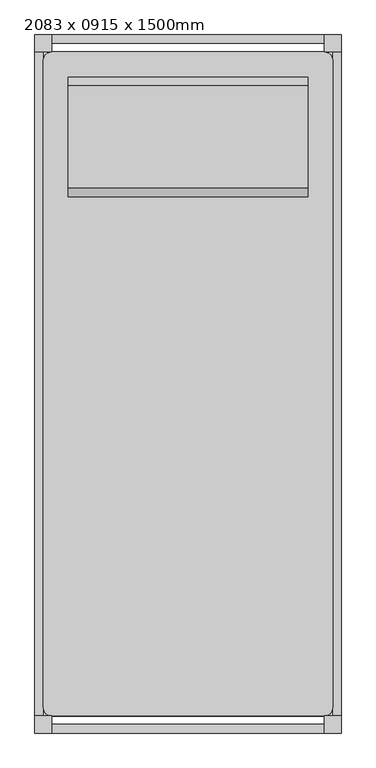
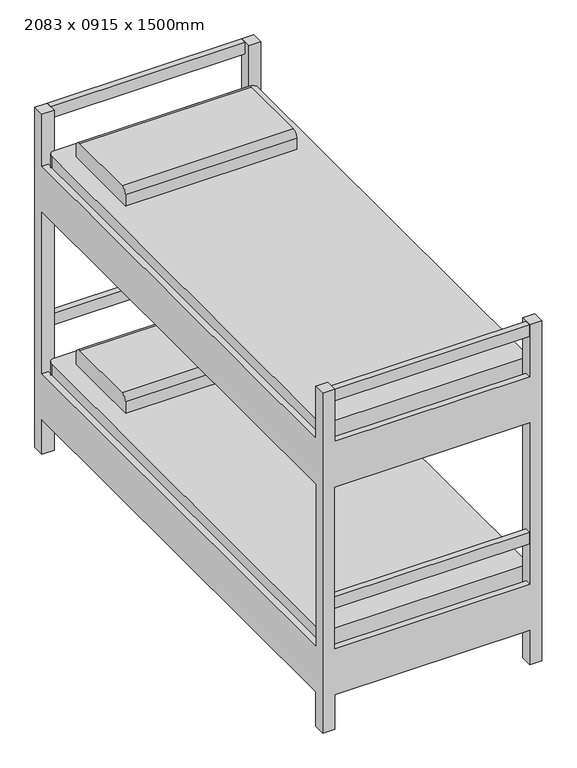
"""IFC4 building model written with IfcOpenShell, lengths in millimetres: furniture geometry, M_Bed-Bunk : 2083 x 0915 x 1500mm."""

from ifc_helpers import new_model, si_unit, point, frame, frame_2d, origin, place, context, project, spatial, polyline, circle_curve, trimmed, segment, composite_curve, outline, extrude, faceted_brep, source, transform, mapped, element, save


def furniture_2083_x_0915_x_1500mm_7f35f9eb(model_context):
    return source(origin(), model_context, "Body", "SolidModel", [
        faceted_brep([(1.7819672, 650.5065574, 1500.0), (-49.0180328, 650.5065574, 1500.0), (-49.0180328, 599.7065574, 1500.0), (1.7819672, 599.7065574, 1500.0), (815.1819672, 650.5065574, 1500.0), (815.1819672, 599.7065574, 1500.0), (865.9819672, 599.7065574, 1500.0), (865.9819672, 650.5065574, 1500.0), (1.7819672, -1432.4934426, 1500.0), (1.7819672, -1381.6934426, 1500.0), (-49.0180328, -1381.6934426, 1500.0), (-49.0180328, -1432.4934426, 1500.0), (815.1819672, -1432.4934426, 1500.0), (865.9819672, -1432.4934426, 1500.0), (865.9819672, -1381.6934426, 1500.0), (815.1819672, -1381.6934426, 1500.0), (1.7819672, 650.5065574, 0.0), (1.7819672, 599.7065574, 0.0), (-49.0180328, 599.7065574, 0.0), (-49.0180328, 650.5065574, 0.0), (815.1819672, 650.5065574, 0.0), (865.9819672, 650.5065574, 0.0), (865.9819672, 599.7065574, 0.0), (815.1819672, 599.7065574, 0.0), (1.7819672, -1432.4934426, 0.0), (-49.0180328, -1432.4934426, 0.0), (-49.0180328, -1381.6934426, 0.0), (1.7819672, -1381.6934426, 0.0), (815.1819672, -1432.4934426, 0.0), (815.1819672, -1381.6934426, 0.0), (865.9819672, -1381.6934426, 0.0), (865.9819672, -1432.4934426, 0.0), (1.7819672, 650.5065574, 1271.4), (815.1819672, 650.5065574, 1271.4), (815.1819672, 650.5065574, 152.4), (1.7819672, 650.5065574, 152.4), (1.7819672, 650.5065574, 1068.2), (1.7819672, 650.5065574, 355.6), (815.1819672, 650.5065574, 355.6), (815.1819672, 650.5065574, 1068.2), (-49.0180328, 599.7065574, 152.4), (-49.0180328, -1381.6934426, 152.4), (-49.0180328, -1381.6934426, 1271.4), (-49.0180328, 599.7065574, 1271.4), (-49.0180328, -1381.6934426, 1068.2), (-49.0180328, -1381.6934426, 355.6), (-49.0180328, 599.7065574, 355.6), (-49.0180328, 599.7065574, 1068.2), (-23.6180328, 599.7065574, 1271.4), (-23.6180328, 599.7065574, 1068.2), (-23.6180328, 599.7065574, 355.6), (-23.6180328, 599.7065574, 152.4), (1.7819672, 625.1065574, 152.4), (1.7819672, 625.1065574, 355.6), (1.7819672, 625.1065574, 1068.2), (1.7819672, 625.1065574, 1271.4), (815.1819672, 625.1065574, 1271.4), (815.1819672, 625.1065574, 1068.2), (815.1819672, 625.1065574, 355.6), (815.1819672, 625.1065574, 152.4), (865.9819672, 599.7065574, 152.4), (840.5819672, 599.7065574, 152.4), (840.5819672, 599.7065574, 355.6), (865.9819672, 599.7065574, 355.6), (865.9819672, 599.7065574, 1068.2), (840.5819672, 599.7065574, 1068.2), (840.5819672, 599.7065574, 1271.4), (865.9819672, 599.7065574, 1271.4), (865.9819672, -1381.6934426, 1271.4), (865.9819672, -1381.6934426, 152.4), (865.9819672, -1381.6934426, 355.6), (865.9819672, -1381.6934426, 1068.2), (1.7819672, -1432.4934426, 1271.4), (1.7819672, -1407.0934426, 1271.4), (1.7819672, -1407.0934426, 1068.2), (1.7819672, -1432.4934426, 1068.2), (1.7819672, -1432.4934426, 355.6), (1.7819672, -1407.0934426, 355.6), (1.7819672, -1407.0934426, 152.4), (1.7819672, -1432.4934426, 152.4), (-23.6180328, -1381.6934426, 152.4), (-23.6180328, -1381.6934426, 355.6), (-23.6180328, -1381.6934426, 1068.2), (-23.6180328, -1381.6934426, 1271.4), (815.1819672, -1432.4934426, 152.4), (815.1819672, -1432.4934426, 1271.4), (815.1819672, -1432.4934426, 1068.2), (815.1819672, -1432.4934426, 355.6), (840.5819672, -1381.6934426, 1271.4), (840.5819672, -1381.6934426, 1068.2), (840.5819672, -1381.6934426, 355.6), (840.5819672, -1381.6934426, 152.4), (815.1819672, -1407.0934426, 152.4), (815.1819672, -1407.0934426, 355.6), (815.1819672, -1407.0934426, 1068.2), (815.1819672, -1407.0934426, 1271.4)], [[[0, 1, 2, 3]], [[4, 5, 6, 7]], [[8, 9, 10, 11]], [[12, 13, 14, 15]], [[16, 17, 18, 19]], [[20, 21, 22, 23]], [[24, 25, 26, 27]], [[28, 29, 30, 31]], [[1, 0, 32, 33, 4, 7, 21, 20, 34, 35, 16, 19], [36, 37, 38, 39]], [[2, 1, 19, 18, 40, 41, 26, 25, 11, 10, 42, 43], [44, 45, 46, 47]], [[3, 2, 43, 48, 49, 47, 46, 50, 51, 40, 18, 17]], [[0, 3, 17, 16, 35, 52, 53, 37, 36, 54, 55, 32]], [[5, 4, 33, 56, 57, 39, 38, 58, 59, 34, 20, 23]], [[6, 5, 23, 22, 60, 61, 62, 63, 64, 65, 66, 67]], [[21, 7, 6, 67, 68, 14, 13, 31, 30, 69, 60, 22], [64, 63, 70, 71]], [[9, 8, 72, 73, 74, 75, 76, 77, 78, 79, 24, 27]], [[10, 9, 27, 26, 41, 80, 81, 45, 44, 82, 83, 42]], [[8, 11, 25, 24, 79, 84, 28, 31, 13, 12, 85, 72], [86, 87, 76, 75]], [[15, 14, 68, 88, 89, 71, 70, 90, 91, 69, 30, 29]], [[12, 15, 29, 28, 84, 92, 93, 87, 86, 94, 95, 85]], [[33, 32, 55, 56]], [[43, 42, 83, 48]], [[68, 67, 66, 88]], [[72, 85, 95, 73]], [[36, 39, 57, 54]], [[44, 47, 49, 82]], [[64, 71, 89, 65]], [[86, 75, 74, 94]], [[56, 55, 54, 57]], [[88, 66, 65, 89]], [[73, 95, 94, 74]], [[48, 83, 82, 49]], [[38, 37, 53, 58]], [[46, 45, 81, 50]], [[70, 63, 62, 90]], [[76, 87, 93, 77]], [[35, 34, 59, 52]], [[41, 40, 51, 80]], [[60, 69, 91, 61]], [[84, 79, 78, 92]], [[90, 62, 61, 91]], [[77, 93, 92, 78]], [[50, 81, 80, 51]], [[58, 53, 52, 59]]]),
        extrude(outline(composite_curve([segment(polyline([(523.5065574, 406.4), (167.9065574, 406.4), (167.9065574, 457.2)]), True, "CONTINUOUS"), segment(trimmed(circle_curve(frame_2d((193.3065574, 457.2)), 25.4), [point((167.9065574, 457.2))], [point((193.3065574, 482.6))], False, "CARTESIAN"), True, "CONTINUOUS"), segment(polyline([(193.3065574, 482.6), (498.1065574, 482.6)]), True, "CONTINUOUS"), segment(trimmed(circle_curve(frame_2d((498.1065574, 457.2)), 25.4), [point((498.1065574, 482.6))], [point((523.5065574, 457.2))], False, "CARTESIAN"), True, "CONTINUOUS"), segment(polyline([(523.5065574, 457.2), (523.5065574, 406.4)]), True, "CONTINUOUS")], self_intersect=False)), frame((50.9819672, 0.0, 0.0), z_axis=(1.0, 0.0, 0.0), x_axis=(0.0, 1.0, 0.0)), (0.0, 0.0, 1.0), 715.0),
        extrude(outline(composite_curve([segment(polyline([(523.5065574, 1322.2), (167.9065574, 1322.2), (167.9065574, 1371.6)]), True, "CONTINUOUS"), segment(trimmed(circle_curve(frame_2d((193.3065574, 1371.6)), 25.4), [point((167.9065574, 1371.6))], [point((193.3065574, 1397.0))], False, "CARTESIAN"), True, "CONTINUOUS"), segment(polyline([(193.3065574, 1397.0), (498.1065574, 1397.0)]), True, "CONTINUOUS"), segment(trimmed(circle_curve(frame_2d((498.1065574, 1371.6)), 25.4), [point((498.1065574, 1397.0))], [point((523.5065574, 1371.6))], False, "CARTESIAN"), True, "CONTINUOUS"), segment(polyline([(523.5065574, 1371.6), (523.5065574, 1322.2)]), True, "CONTINUOUS")], self_intersect=False)), frame((50.9819672, 0.0, 0.0), z_axis=(1.0, 0.0, 0.0), x_axis=(0.0, 1.0, 0.0)), (0.0, 0.0, 1.0), 715.0),
        extrude(outline(polyline([(815.1819672, -1432.4934426), (1.7819672, -1432.4934426), (1.7819672, -1407.0934426), (815.1819672, -1407.0934426), (815.1819672, -1432.4934426)])), frame((0.0, 0.0, 533.4), z_axis=(0.0, 0.0, 1.0), x_axis=(1.0, 0.0, 0.0)), (0.0, 0.0, 1.0), 50.8),
        extrude(outline(polyline([(815.1819672, 650.5065574), (815.1819672, 625.1065574), (1.7819672, 625.1065574), (1.7819672, 650.5065574), (815.1819672, 650.5065574)])), frame((0.0, 0.0, 533.4), z_axis=(0.0, 0.0, 1.0), x_axis=(1.0, 0.0, 0.0)), (0.0, 0.0, 1.0), 50.8),
        extrude(outline(polyline([(815.1819672, 650.5065574), (815.1819672, 625.1065574), (1.7819672, 625.1065574), (1.7819672, 650.5065574), (815.1819672, 650.5065574)])), frame((0.0, 0.0, 1449.2), z_axis=(0.0, 0.0, 1.0), x_axis=(1.0, 0.0, 0.0)), (0.0, 0.0, 1.0), 50.8),
        extrude(outline(polyline([(815.1819672, -1432.4934426), (1.7819672, -1432.4934426), (1.7819672, -1407.0934426), (815.1819672, -1407.0934426), (815.1819672, -1432.4934426)])), frame((0.0, 0.0, 1449.2), z_axis=(0.0, 0.0, 1.0), x_axis=(1.0, 0.0, 0.0)), (0.0, 0.0, 1.0), 50.8),
        extrude(outline(composite_curve([segment(trimmed(circle_curve(frame_2d((815.1819672, 574.3065574)), 25.4), [point((815.1819672, 599.7065574))], [point((840.5819672, 574.3065574))], False, "CARTESIAN"), True, "CONTINUOUS"), segment(polyline([(840.5819672, 574.3065574), (840.5819672, -1356.2934426)]), True, "CONTINUOUS"), segment(trimmed(circle_curve(frame_2d((815.1819672, -1356.2934426)), 25.4), [point((840.5819672, -1356.2934426))], [point((815.1819672, -1381.6934426))], False, "CARTESIAN"), True, "CONTINUOUS"), segment(polyline([(815.1819672, -1381.6934426), (1.7819672, -1381.6934426)]), True, "CONTINUOUS"), segment(trimmed(circle_curve(frame_2d((1.7819672, -1356.2934426)), 25.4), [point((1.7819672, -1381.6934426))], [point((-23.6180328, -1356.2934426))], False, "CARTESIAN"), True, "CONTINUOUS"), segment(polyline([(-23.6180328, -1356.2934426), (-23.6180328, 574.3065574)]), True, "CONTINUOUS"), segment(trimmed(circle_curve(frame_2d((1.7819672, 574.3065574)), 25.4), [point((-23.6180328, 574.3065574))], [point((1.7819672, 599.7065574))], False, "CARTESIAN"), True, "CONTINUOUS"), segment(polyline([(1.7819672, 599.7065574), (815.1819672, 599.7065574)]), True, "CONTINUOUS")], self_intersect=False)), frame((0.0, 0.0, 1119.0), z_axis=(0.0, 0.0, 1.0), x_axis=(1.0, 0.0, 0.0)), (0.0, 0.0, 1.0), 203.2),
        extrude(outline(composite_curve([segment(trimmed(circle_curve(frame_2d((815.1819672, 574.3065574)), 25.4), [point((815.1819672, 599.7065574))], [point((840.5819672, 574.3065574))], False, "CARTESIAN"), True, "CONTINUOUS"), segment(polyline([(840.5819672, 574.3065574), (840.5819672, -1356.2934426)]), True, "CONTINUOUS"), segment(trimmed(circle_curve(frame_2d((815.1819672, -1356.2934426)), 25.4), [point((840.5819672, -1356.2934426))], [point((815.1819672, -1381.6934426))], False, "CARTESIAN"), True, "CONTINUOUS"), segment(polyline([(815.1819672, -1381.6934426), (1.7819672, -1381.6934426)]), True, "CONTINUOUS"), segment(trimmed(circle_curve(frame_2d((1.7819672, -1356.2934426)), 25.4), [point((1.7819672, -1381.6934426))], [point((-23.6180328, -1356.2934426))], False, "CARTESIAN"), True, "CONTINUOUS"), segment(polyline([(-23.6180328, -1356.2934426), (-23.6180328, 574.3065574)]), True, "CONTINUOUS"), segment(trimmed(circle_curve(frame_2d((1.7819672, 574.3065574)), 25.4), [point((-23.6180328, 574.3065574))], [point((1.7819672, 599.7065574))], False, "CARTESIAN"), True, "CONTINUOUS"), segment(polyline([(1.7819672, 599.7065574), (815.1819672, 599.7065574)]), True, "CONTINUOUS")], self_intersect=False)), frame((0.0, 0.0, 203.2), z_axis=(0.0, 0.0, 1.0), x_axis=(1.0, 0.0, 0.0)), (0.0, 0.0, 1.0), 203.2),
    ])


if __name__ == "__main__":
    model = new_model("IFC4")
    model_context = context("Model", 3, world=origin())
    ifc_project = project(units=[si_unit("LENGTHUNIT", "METRE", prefix="MILLI")], contexts=[model_context])
    site = spatial("IfcSite", under=ifc_project)
    building = spatial("IfcBuilding", under=site)
    placement = place(None, origin())
    furniture_2083_x_0915_x_1500mm_shape = furniture_2083_x_0915_x_1500mm_7f35f9eb(model_context)
    element("IfcFurniture", 1, ObjectType="M_Bed-Bunk : 2083 x 0915 x 1500mm", at=placement, inside=building, context=model_context, shape_type="MappedRepresentation", body=[
        mapped(furniture_2083_x_0915_x_1500mm_shape, transform((0.0, 0.0, 0.0), x_axis=(1.0, 0.0, 0.0), y_axis=(0.0, 1.0, 0.0), z_axis=(0.0, 0.0, 1.0))),
    ])
    save(model, "model.ifc")
